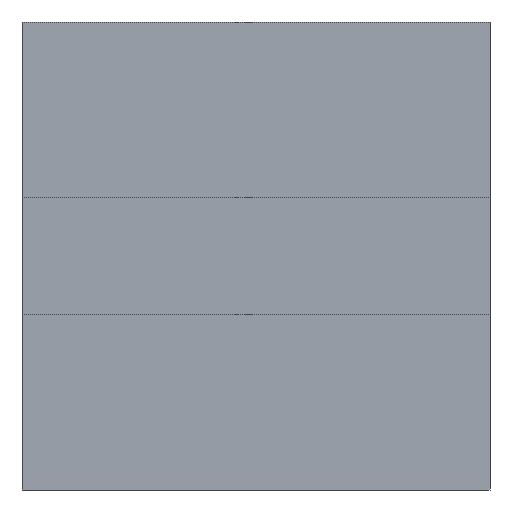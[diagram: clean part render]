
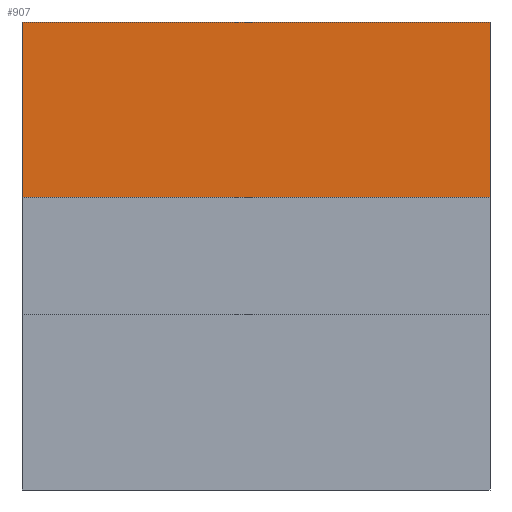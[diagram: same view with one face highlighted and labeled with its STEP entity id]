
A CAD part, left-side view. The second image highlights one B-rep face of the part: STEP entity #907.
In plain terms, the highlighted planar face has unit normal (-1, 0, 0) as drawn and (1, 0, 0) by its records, which use the part's own axes.
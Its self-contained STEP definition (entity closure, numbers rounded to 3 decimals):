
#59=FACE_OUTER_BOUND('',#106,.T.);
#106=EDGE_LOOP('',(#736,#737,#738,#739));
#206=LINE('',#1433,#331);
#208=LINE('',#1437,#333);
#209=LINE('',#1439,#334);
#210=LINE('',#1440,#335);
#331=VECTOR('',#1181,10.);
#333=VECTOR('',#1185,10.);
#334=VECTOR('',#1186,10.);
#335=VECTOR('',#1187,10.);
#427=VERTEX_POINT('',#1430);
#428=VERTEX_POINT('',#1432);
#429=VERTEX_POINT('',#1436);
#430=VERTEX_POINT('',#1438);
#538=EDGE_CURVE('',#428,#427,#206,.T.);
#540=EDGE_CURVE('',#427,#429,#208,.T.);
#541=EDGE_CURVE('',#430,#429,#209,.T.);
#542=EDGE_CURVE('',#430,#428,#210,.T.);
#736=ORIENTED_EDGE('',*,*,#540,.T.);
#737=ORIENTED_EDGE('',*,*,#541,.F.);
#738=ORIENTED_EDGE('',*,*,#542,.T.);
#739=ORIENTED_EDGE('',*,*,#538,.T.);
#860=PLANE('',#1009);
#907=ADVANCED_FACE('',(#59),#860,.T.);
#1009=AXIS2_PLACEMENT_3D('',#1435,#1183,#1184);
#1181=DIRECTION('',(0.,0.,1.));
#1183=DIRECTION('center_axis',(1.,0.,0.));
#1184=DIRECTION('ref_axis',(0.,1.,0.));
#1185=DIRECTION('',(0.,-1.,0.));
#1186=DIRECTION('',(0.,0.,1.));
#1187=DIRECTION('',(0.,1.,0.));
#1430=CARTESIAN_POINT('',(10.,20.,40.));
#1432=CARTESIAN_POINT('',(10.,20.,0.));
#1433=CARTESIAN_POINT('',(10.,20.,0.));
#1435=CARTESIAN_POINT('Origin',(10.,5.,0.));
#1436=CARTESIAN_POINT('',(10.,5.,40.));
#1437=CARTESIAN_POINT('',(10.,2.5,40.));
#1438=CARTESIAN_POINT('',(10.,5.,0.));
#1439=CARTESIAN_POINT('',(10.,5.,0.));
#1440=CARTESIAN_POINT('',(10.,5.,0.));
